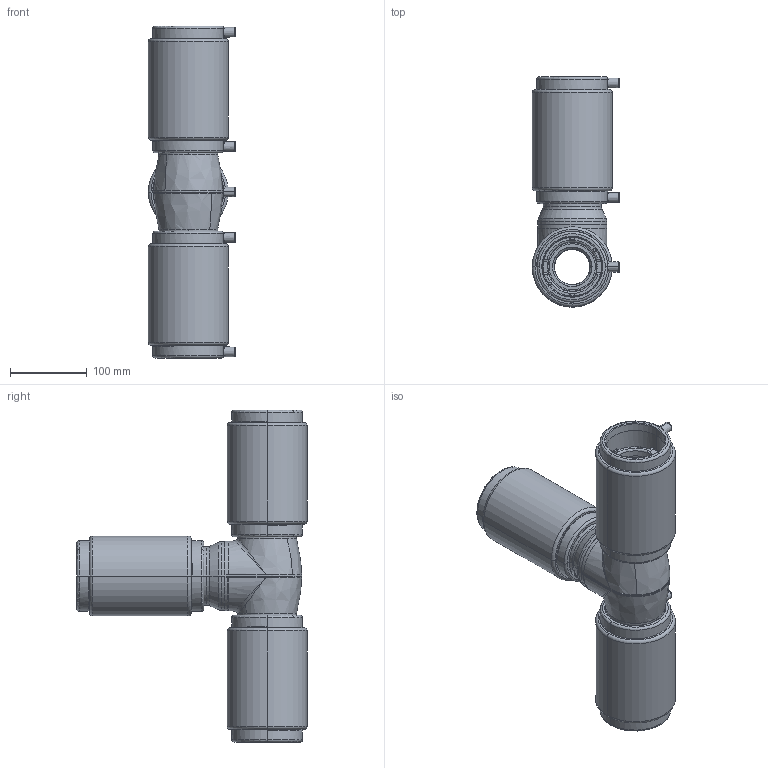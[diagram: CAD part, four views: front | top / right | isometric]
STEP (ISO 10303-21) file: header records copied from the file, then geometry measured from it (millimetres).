
FILE_DESCRIPTION (( 'STEP AP214' ), '1' );
FILE_NAME ('KP_8-75-63SCA.STEP', '2014-01-20T10:19:30', ( 'robinj' ), ( 'Microsoft' ), 'SwSTEP 2.0', 'SolidWorks 2014', '' );
FILE_SCHEMA (( 'AUTOMOTIVE_DESIGN' ));
Length unit declared in the file: millimetre
Products named in the file (1): KP_8-75-63SCA
Bounding box: 113.72 x 299.5 x 432 mm (x, y, z)
Volume: 2636122.3 mm3; surface area: 750000.3 mm2
Topology: 6 solids, 12 shells, 1986 faces, 5182 edges, 3289 vertices
Faces by surface type: plane 756, bspline 428, cylinder 421, torus 193, cone 164, sphere 24
Entity records: 96132 total; most frequent: CARTESIAN_POINT 46976, ORIENTED_EDGE 10292, DIRECTION 7316, EDGE_CURVE 5146, VERTEX_POINT 3286, AXIS2_PLACEMENT_3D 2875, EDGE_LOOP 2152, ADVANCED_FACE 1983
